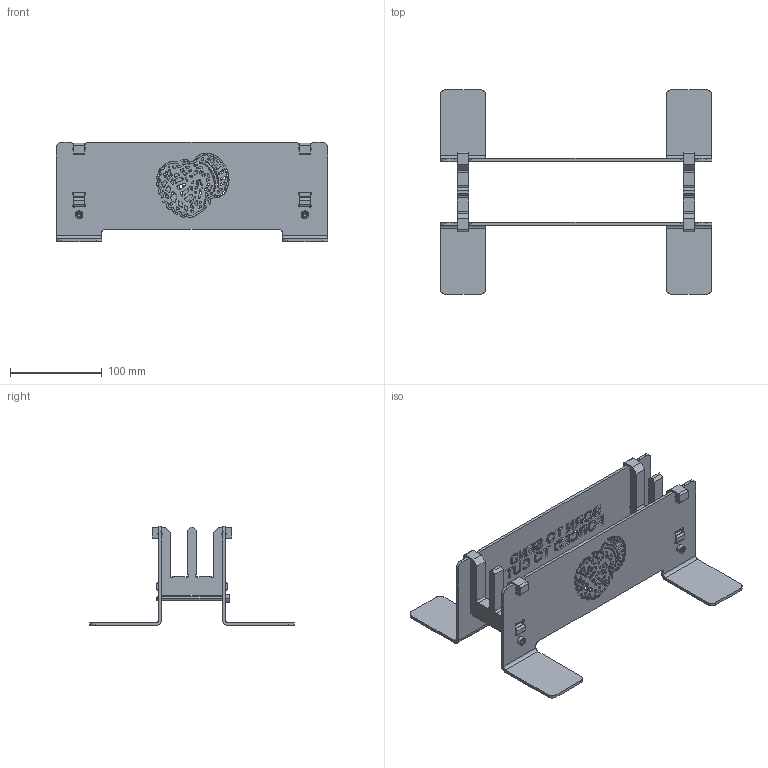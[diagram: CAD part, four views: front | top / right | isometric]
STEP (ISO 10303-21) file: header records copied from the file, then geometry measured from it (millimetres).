
FILE_DESCRIPTION(('HOOPS Exchange Step'),'2;1');
FILE_NAME('/home/e/Projects/CAD/SCS_XX/laptopStand_26/release/_assembly_laptopStandDouble-A-00.step','2026-10-14T12:41:30-07:00',('e'),('Unknown organisation'),'HOOPS Exchange 2025.8','HOOPS Exchange','Unknown authorisation');
FILE_SCHEMA( ('AP203_CONFIGURATION_CONTROLLED_3D_DESIGN_OF_MECHANICAL_PARTS_AND_ASSEMBLIES_MIM_LF') );
Length unit declared in the file: millimetre
Products named in the file (2): 0; root
Assembly tree (1 placements, depth 2):
  root
    0
Bounding box: 296.66 x 222.84 x 108.18 mm (x, y, z)
Volume: 302979.5 mm3; surface area: 185980.2 mm2
Topology: 6 solids, 6 shells, 8685 faces, 25993 edges, 17320 vertices
Faces by surface type: plane 7995, cylinder 670, cone 12, torus 8
Full cylindrical faces by diameter (mm): 5.25 x4
Entity records: 288436 total; most frequent: CARTESIAN_POINT 52572, ORIENTED_EDGE 51978, DIRECTION 44715, EDGE_CURVE 25989, VECTOR 24589, LINE 24589, VERTEX_POINT 17320, AXIS2_PLACEMENT_3D 10063
